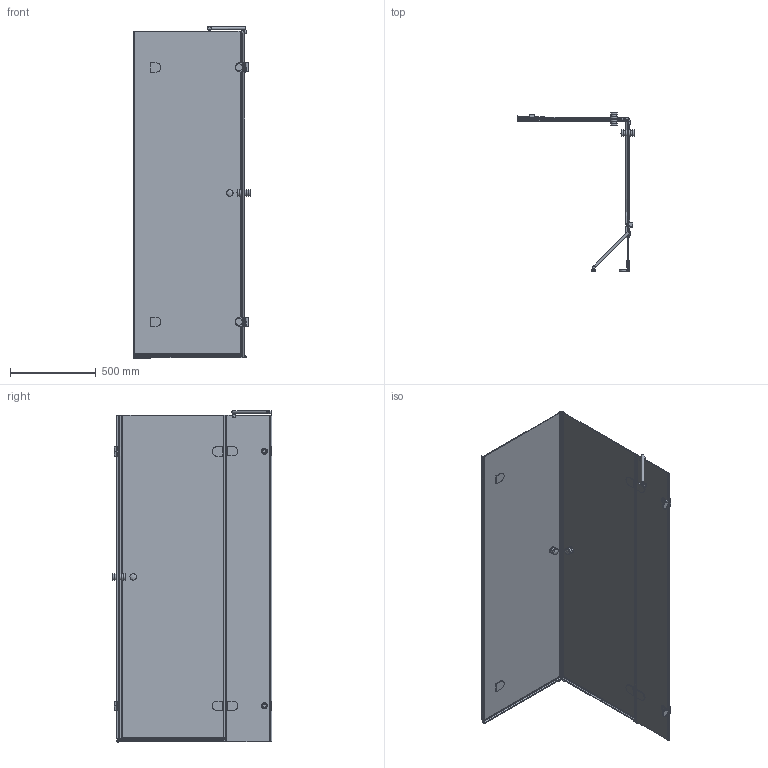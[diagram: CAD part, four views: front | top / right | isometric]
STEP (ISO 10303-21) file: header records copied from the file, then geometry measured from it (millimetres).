
FILE_DESCRIPTION(/* description */ (''),/* implementation_level */ '2;1');
FILE_NAME(/* name */ 'E:\Работа\Сергей\Душевые кабинки\! Работа\!\LUX SQUARE GK-003GC-2511\LUX SQUARE GK-003GC-2511 левая модель\LUX SQUARE GK-003GC-2511 ЛЕВАЯ-3D.stp',/* time_stamp */ '2017-10-03T18:38:47+03:00',/* author */ ('PC'),/* organization */ (''),/* preprocessor_version */ 'ST-DEVELOPER v15.2',/* originating_system */ 'Autodesk Inventor 2014',/* authorisation */ '');
FILE_SCHEMA (('AUTOMOTIVE_DESIGN { 1 0 10303 214 3 1 1 }'));
Length unit declared in the file: millimetre
Products named in the file (1): LUX SQUARE GK-003GC-2511 ЛЕВАЯ-
3D
Bounding box: 683.5 x 928 x 1931.49 mm (x, y, z)
Volume: 18405602.2 mm3; surface area: 6402902.4 mm2
Topology: 6 solids, 14 shells, 975 faces, 2402 edges, 1490 vertices
Faces by surface type: plane 699, cylinder 236, torus 22, sphere 9, bspline 7, cone 2
Full cylindrical faces by diameter (mm): 12 x1, 15 x1, 20 x2, 26 x1, 30 x2, 35 x2, 38 x8, 40 x2
Entity records: 29635 total; most frequent: CARTESIAN_POINT 5635, ORIENTED_EDGE 4714, DIRECTION 4709, EDGE_CURVE 2357, LINE 1811, VECTOR 1811, VERTEX_POINT 1478, AXIS2_PLACEMENT_3D 1449
